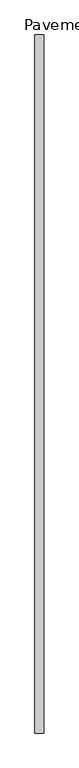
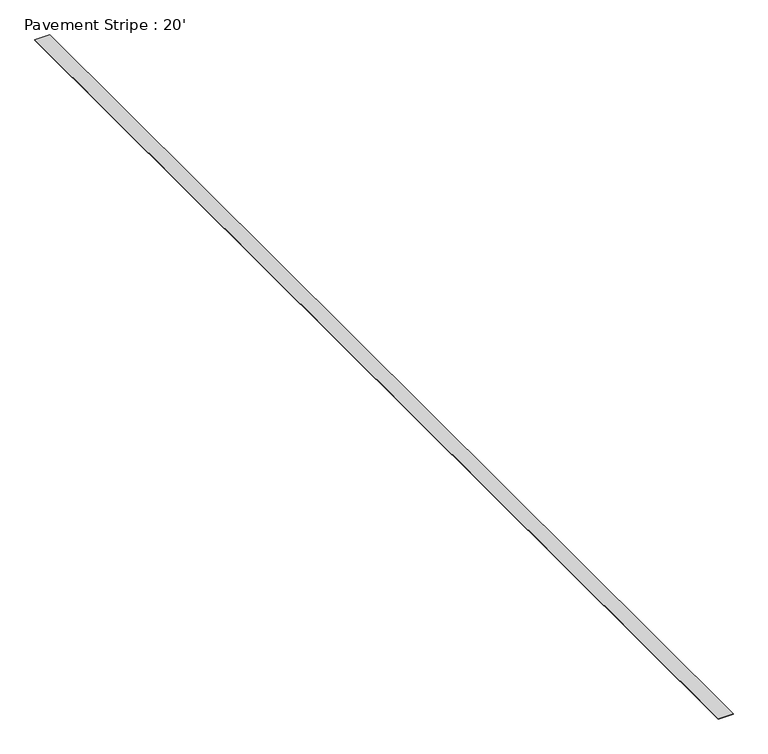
"""IFC4 building model written with IfcOpenShell, lengths in millimetres: geographic element geometry, Pavement Stripe : 20'."""

from ifc_helpers import new_model, si_unit, origin, origin_with_axes, place, context, project, spatial, polyline, outline, extrude, source, transform, mapped, element, save


def pavement_stripe_20_eeeff9bc(model_context):
    return source(origin(), model_context, "Body", "SweptSolid", [
        extrude(outline(polyline([(1303.0620479, -859.2253385), (1226.8620479, -859.2253385), (1226.8620479, 5236.7746615), (1303.0620479, 5236.7746615), (1303.0620479, -859.2253385)])), origin_with_axes(), (0.0, 0.0, 1.0), 1.5875),
    ])


if __name__ == "__main__":
    model = new_model("IFC4")
    model_context = context("Model", 3, world=origin())
    ifc_project = project(units=[si_unit("LENGTHUNIT", "METRE", prefix="MILLI")], contexts=[model_context])
    site = spatial("IfcSite", under=ifc_project)
    building = spatial("IfcBuilding", under=site)
    placement = place(None, origin())
    pavement_stripe_20_shape = pavement_stripe_20_eeeff9bc(model_context)
    element("IfcGeographicElement", 1, ObjectType="Pavement Stripe : 20'", at=placement, inside=building, context=model_context, shape_type="MappedRepresentation", body=[
        mapped(pavement_stripe_20_shape, transform((0.0, 0.0, 0.0), x_axis=(1.0, 0.0, 0.0), y_axis=(0.0, 1.0, 0.0), z_axis=(0.0, 0.0, 1.0))),
    ])
    save(model, "model.ifc")
